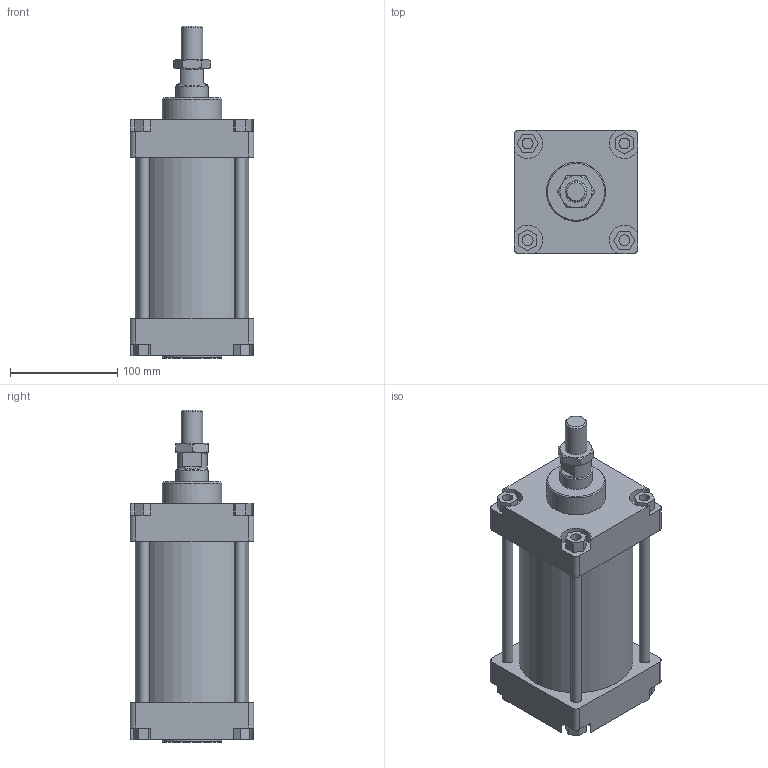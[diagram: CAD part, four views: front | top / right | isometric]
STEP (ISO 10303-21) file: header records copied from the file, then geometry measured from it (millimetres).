
FILE_DESCRIPTION(/* description */ (''),/* implementation_level */ '2;1');
FILE_NAME(/* name */ 'I:\Area Tecnica\Disegni\VARIE-3D\Componenti\CSP\Ø100\130#_100_####_###\130#_100_0075_01A.stp',/* time_stamp */ '2016-11-24T13:50:53+01:00',/* author */ ('Maniean1'),/* organization */ ('Pneumax S.p.A.'),/* preprocessor_version */ 'ST-DEVELOPER v15.2',/* originating_system */ 'Autodesk Inventor 2014',/* authorisation */ '');
FILE_SCHEMA (('AUTOMOTIVE_DESIGN { 1 0 10303 214 3 1 1 }'));
Length unit declared in the file: millimetre
Products named in the file (6): C_130#_100_0075; Testata anteriore_100; Testata posteriore_100; S_130#_100_0075_01A; 130#_100_18F; 130#_100_0075_01A
Bounding box: 115 x 115 x 309 mm (x, y, z)
Volume: 1754766.4 mm3; surface area: 288968 mm2
Topology: 9 solids, 9 shells, 162 faces, 380 edges, 249 vertices
Faces by surface type: plane 105, cylinder 42, cone 15
Full cylindrical faces by diameter (mm): 10 x12, 18.376 x1, 18.5 x1, 19 x2, 20 x1, 28 x1, 30 x3, 55 x2, 100 x2, 106 x1
Entity records: 4530 total; most frequent: CARTESIAN_POINT 785, DIRECTION 764, ORIENTED_EDGE 672, EDGE_CURVE 336, AXIS2_PLACEMENT_3D 271, VERTEX_POINT 244, EDGE_LOOP 236, LINE 222
